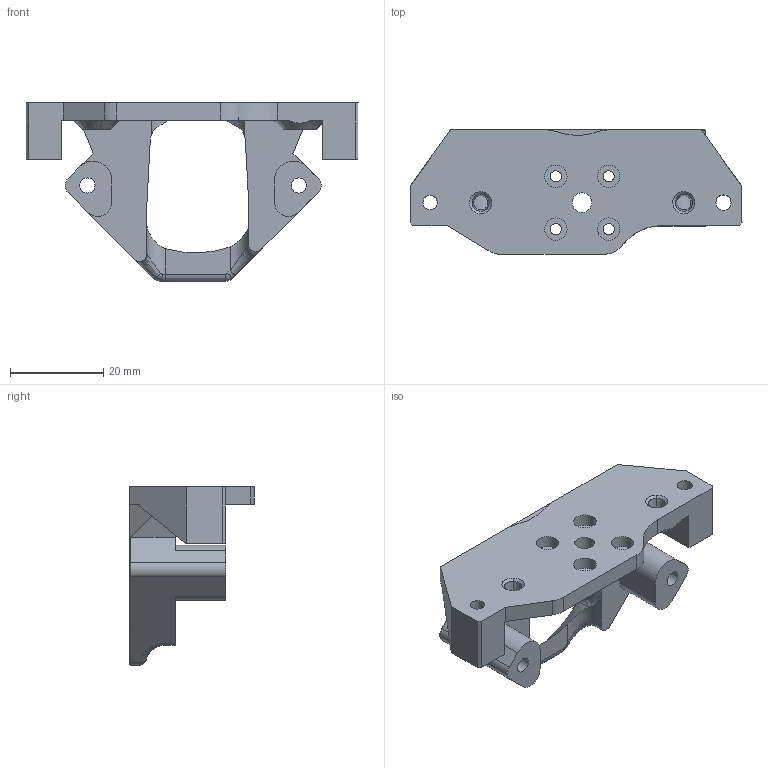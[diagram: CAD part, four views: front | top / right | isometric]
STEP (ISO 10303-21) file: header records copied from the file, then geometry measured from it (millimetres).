
FILE_DESCRIPTION(/* description */ (''),/* implementation_level */ '2;1');
FILE_NAME(/* name */ 'C:/Users/Martin/Documents/icarus-2.1/icarus-2-current-step-files/2-mounts/mount-sherpa-mini-r1-volcano-dragon-2.2.step',/* time_stamp */ '2022-08-22T19:16:49+02:00',/* author */ (''),/* organization */ (''),/* preprocessor_version */ 'ST-DEVELOPER v19',/* originating_system */ 'Autodesk Translation Framework v11.7.0.108',/* authorisation */ '');
FILE_SCHEMA (('AUTOMOTIVE_DESIGN { 1 0 10303 214 3 1 1 }'));
Length unit declared in the file: millimetre
Products named in the file (1): mount-rapido
Bounding box: 71.07 x 26.66 x 38.18 mm (x, y, z)
Volume: 13578.5 mm3; surface area: 8652.9 mm2
Topology: 1 solids, 1 shells, 140 faces, 371 edges, 237 vertices
Faces by surface type: plane 51, bspline 47, cylinder 33, cone 8, torus 1
Full cylindrical faces by diameter (mm): 2.4 x4, 3.1 x1, 3.25 x5, 4.2 x1, 4.8 x4
Entity records: 7008 total; most frequent: CARTESIAN_POINT 3729, ORIENTED_EDGE 744, DIRECTION 535, EDGE_CURVE 372, VERTEX_POINT 238, LINE 191, VECTOR 191, AXIS2_PLACEMENT_3D 172
